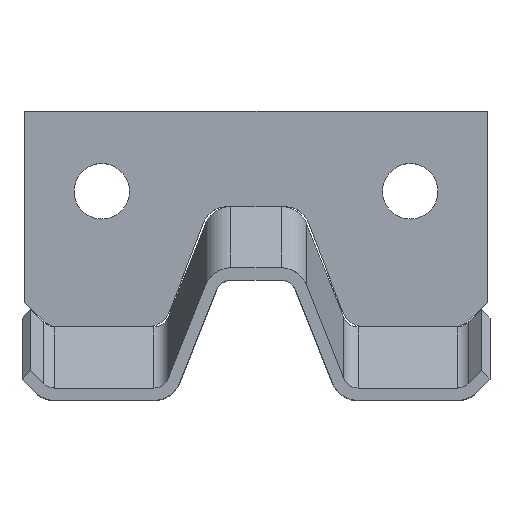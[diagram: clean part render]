
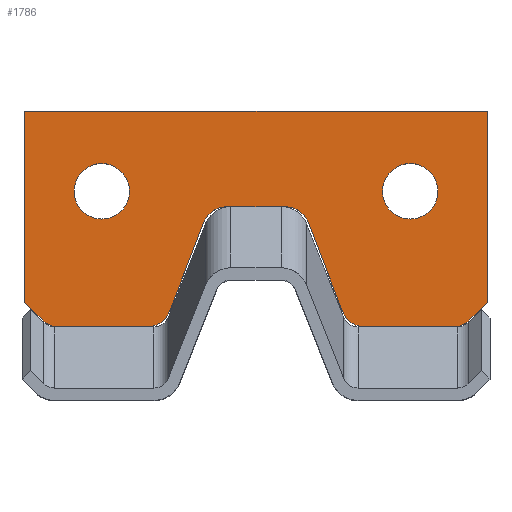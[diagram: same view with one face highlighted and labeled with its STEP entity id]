
A CAD part, top view. The second image highlights one B-rep face of the part: STEP entity #1786.
In plain terms, the highlighted planar face has unit normal (0, 0, 1).
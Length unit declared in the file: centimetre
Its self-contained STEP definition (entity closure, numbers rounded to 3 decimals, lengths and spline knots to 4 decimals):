
#86=FACE_BOUND('',#203,.T.);
#87=FACE_BOUND('',#204,.T.);
#94=FACE_OUTER_BOUND('',#202,.T.);
#202=EDGE_LOOP('',(#1188,#1189,#1190,#1191,#1192,#1193,#1194,#1195,#1196,
#1197,#1198,#1199,#1200,#1201,#1202,#1203,#1204,#1205));
#203=EDGE_LOOP('',(#1206));
#204=EDGE_LOOP('',(#1207));
#318=CIRCLE('',#1897,0.8);
#319=CIRCLE('',#1898,0.8);
#320=CIRCLE('',#1899,0.8);
#321=CIRCLE('',#1900,0.8);
#322=CIRCLE('',#1901,0.8);
#323=CIRCLE('',#1902,0.8);
#324=CIRCLE('',#1903,0.9);
#325=CIRCLE('',#1904,0.9);
#362=LINE('',#2630,#562);
#363=LINE('',#2634,#563);
#364=LINE('',#2638,#564);
#365=LINE('',#2642,#565);
#366=LINE('',#2644,#566);
#367=LINE('',#2646,#567);
#368=LINE('',#2648,#568);
#369=LINE('',#2650,#569);
#370=LINE('',#2654,#570);
#371=LINE('',#2658,#571);
#372=LINE('',#2662,#572);
#373=LINE('',#2663,#573);
#562=VECTOR('',#2076,0.1);
#563=VECTOR('',#2079,0.1);
#564=VECTOR('',#2082,0.1);
#565=VECTOR('',#2085,0.1);
#566=VECTOR('',#2086,0.1);
#567=VECTOR('',#2087,0.1);
#568=VECTOR('',#2088,0.1);
#569=VECTOR('',#2089,0.1);
#570=VECTOR('',#2092,0.1);
#571=VECTOR('',#2095,0.1);
#572=VECTOR('',#2098,0.1);
#573=VECTOR('',#2099,0.1);
#762=VERTEX_POINT('',#2628);
#763=VERTEX_POINT('',#2629);
#764=VERTEX_POINT('',#2631);
#765=VERTEX_POINT('',#2633);
#766=VERTEX_POINT('',#2635);
#767=VERTEX_POINT('',#2637);
#768=VERTEX_POINT('',#2639);
#769=VERTEX_POINT('',#2641);
#770=VERTEX_POINT('',#2643);
#771=VERTEX_POINT('',#2645);
#772=VERTEX_POINT('',#2647);
#773=VERTEX_POINT('',#2649);
#774=VERTEX_POINT('',#2651);
#775=VERTEX_POINT('',#2653);
#776=VERTEX_POINT('',#2655);
#777=VERTEX_POINT('',#2657);
#778=VERTEX_POINT('',#2659);
#779=VERTEX_POINT('',#2661);
#780=VERTEX_POINT('',#2664);
#781=VERTEX_POINT('',#2666);
#920=EDGE_CURVE('',#762,#763,#362,.T.);
#921=EDGE_CURVE('',#763,#764,#318,.T.);
#922=EDGE_CURVE('',#764,#765,#363,.T.);
#923=EDGE_CURVE('',#765,#766,#319,.T.);
#924=EDGE_CURVE('',#767,#766,#364,.T.);
#925=EDGE_CURVE('',#767,#768,#320,.T.);
#926=EDGE_CURVE('',#768,#769,#365,.T.);
#927=EDGE_CURVE('',#769,#770,#366,.T.);
#928=EDGE_CURVE('',#770,#771,#367,.T.);
#929=EDGE_CURVE('',#771,#772,#368,.T.);
#930=EDGE_CURVE('',#772,#773,#369,.T.);
#931=EDGE_CURVE('',#773,#774,#321,.T.);
#932=EDGE_CURVE('',#775,#774,#370,.T.);
#933=EDGE_CURVE('',#775,#776,#322,.T.);
#934=EDGE_CURVE('',#776,#777,#371,.T.);
#935=EDGE_CURVE('',#777,#778,#323,.T.);
#936=EDGE_CURVE('',#778,#779,#372,.T.);
#937=EDGE_CURVE('',#762,#779,#373,.T.);
#938=EDGE_CURVE('',#780,#780,#324,.T.);
#939=EDGE_CURVE('',#781,#781,#325,.T.);
#1188=ORIENTED_EDGE('',*,*,#920,.T.);
#1189=ORIENTED_EDGE('',*,*,#921,.T.);
#1190=ORIENTED_EDGE('',*,*,#922,.T.);
#1191=ORIENTED_EDGE('',*,*,#923,.T.);
#1192=ORIENTED_EDGE('',*,*,#924,.F.);
#1193=ORIENTED_EDGE('',*,*,#925,.T.);
#1194=ORIENTED_EDGE('',*,*,#926,.T.);
#1195=ORIENTED_EDGE('',*,*,#927,.T.);
#1196=ORIENTED_EDGE('',*,*,#928,.T.);
#1197=ORIENTED_EDGE('',*,*,#929,.T.);
#1198=ORIENTED_EDGE('',*,*,#930,.T.);
#1199=ORIENTED_EDGE('',*,*,#931,.T.);
#1200=ORIENTED_EDGE('',*,*,#932,.F.);
#1201=ORIENTED_EDGE('',*,*,#933,.T.);
#1202=ORIENTED_EDGE('',*,*,#934,.T.);
#1203=ORIENTED_EDGE('',*,*,#935,.T.);
#1204=ORIENTED_EDGE('',*,*,#936,.T.);
#1205=ORIENTED_EDGE('',*,*,#937,.F.);
#1206=ORIENTED_EDGE('',*,*,#938,.T.);
#1207=ORIENTED_EDGE('',*,*,#939,.T.);
#1724=PLANE('',#1896);
#1786=ADVANCED_FACE('',(#94,#86,#87),#1724,.T.);
#1896=AXIS2_PLACEMENT_3D('',#2627,#2074,#2075);
#1897=AXIS2_PLACEMENT_3D('',#2632,#2077,#2078);
#1898=AXIS2_PLACEMENT_3D('',#2636,#2080,#2081);
#1899=AXIS2_PLACEMENT_3D('',#2640,#2083,#2084);
#1900=AXIS2_PLACEMENT_3D('',#2652,#2090,#2091);
#1901=AXIS2_PLACEMENT_3D('',#2656,#2093,#2094);
#1902=AXIS2_PLACEMENT_3D('',#2660,#2096,#2097);
#1903=AXIS2_PLACEMENT_3D('',#2665,#2100,#2101);
#1904=AXIS2_PLACEMENT_3D('',#2667,#2102,#2103);
#2074=DIRECTION('center_axis',(0.,0.,1.));
#2075=DIRECTION('ref_axis',(1.,0.,0.));
#2076=DIRECTION('',(1.,0.,0.));
#2077=DIRECTION('center_axis',(0.,0.,-1.));
#2078=DIRECTION('ref_axis',(0.566,0.824,0.));
#2079=DIRECTION('',(0.359,-0.933,0.));
#2080=DIRECTION('center_axis',(0.,0.,1.));
#2081=DIRECTION('ref_axis',(-0.566,-0.824,0.));
#2082=DIRECTION('',(-1.,0.,0.));
#2083=DIRECTION('center_axis',(0.,0.,1.));
#2084=DIRECTION('ref_axis',(0.383,-0.924,0.));
#2085=DIRECTION('',(0.707,0.707,0.));
#2086=DIRECTION('',(0.,1.,0.));
#2087=DIRECTION('',(-1.,0.,0.));
#2088=DIRECTION('',(0.,-1.,0.));
#2089=DIRECTION('',(0.707,-0.707,0.));
#2090=DIRECTION('center_axis',(0.,0.,1.));
#2091=DIRECTION('ref_axis',(-0.383,-0.924,0.));
#2092=DIRECTION('',(-1.,0.,0.));
#2093=DIRECTION('center_axis',(0.,0.,1.));
#2094=DIRECTION('ref_axis',(0.566,-0.824,0.));
#2095=DIRECTION('',(0.359,0.933,0.));
#2096=DIRECTION('center_axis',(0.,0.,-1.));
#2097=DIRECTION('ref_axis',(-0.566,0.824,0.));
#2098=DIRECTION('',(1.,0.,0.));
#2099=DIRECTION('',(-1.,0.,0.));
#2100=DIRECTION('center_axis',(0.,0.,-1.));
#2101=DIRECTION('ref_axis',(1.,0.,0.));
#2102=DIRECTION('center_axis',(0.,0.,-1.));
#2103=DIRECTION('ref_axis',(1.,0.,0.));
#2627=CARTESIAN_POINT('Origin',(-52.4958,280.4396,1.));
#2628=CARTESIAN_POINT('',(-55.1851,279.9396,1.));
#2629=CARTESIAN_POINT('',(-55.0452,279.9396,1.));
#2630=CARTESIAN_POINT('',(-56.9463,279.9396,1.));
#2631=CARTESIAN_POINT('',(-54.2985,279.4268,1.));
#2632=CARTESIAN_POINT('Origin',(-55.0452,279.1396,1.));
#2633=CARTESIAN_POINT('',(-53.193,276.5524,1.));
#2634=CARTESIAN_POINT('',(-54.2985,279.4268,1.));
#2635=CARTESIAN_POINT('',(-52.4463,276.0396,1.));
#2636=CARTESIAN_POINT('Origin',(-52.4463,276.8396,1.));
#2637=CARTESIAN_POINT('',(-49.6271,276.0396,1.));
#2638=CARTESIAN_POINT('',(-52.5904,276.0396,1.));
#2639=CARTESIAN_POINT('',(-49.0614,276.2739,1.));
#2640=CARTESIAN_POINT('Origin',(-49.6271,276.8396,1.));
#2641=CARTESIAN_POINT('',(-48.4958,276.8396,1.));
#2642=CARTESIAN_POINT('',(-49.0614,276.2739,1.));
#2643=CARTESIAN_POINT('',(-48.4958,283.0396,1.));
#2644=CARTESIAN_POINT('',(-48.4958,276.8396,1.));
#2645=CARTESIAN_POINT('',(-63.4958,283.0396,1.));
#2646=CARTESIAN_POINT('',(-48.4958,283.0396,1.));
#2647=CARTESIAN_POINT('',(-63.4958,276.8396,1.));
#2648=CARTESIAN_POINT('',(-63.4958,283.0396,1.));
#2649=CARTESIAN_POINT('',(-62.9301,276.2739,1.));
#2650=CARTESIAN_POINT('',(-63.4958,276.8396,1.));
#2651=CARTESIAN_POINT('',(-62.3644,276.0396,1.));
#2652=CARTESIAN_POINT('Origin',(-62.3644,276.8396,1.));
#2653=CARTESIAN_POINT('',(-59.5452,276.0396,1.));
#2654=CARTESIAN_POINT('',(-57.5084,276.0396,1.));
#2655=CARTESIAN_POINT('',(-58.7985,276.5524,1.));
#2656=CARTESIAN_POINT('Origin',(-59.5452,276.8396,1.));
#2657=CARTESIAN_POINT('',(-57.693,279.4268,1.));
#2658=CARTESIAN_POINT('',(-58.7985,276.5524,1.));
#2659=CARTESIAN_POINT('',(-56.9463,279.9396,1.));
#2660=CARTESIAN_POINT('Origin',(-56.9463,279.1396,1.));
#2661=CARTESIAN_POINT('',(-56.8064,279.9396,1.));
#2662=CARTESIAN_POINT('',(-56.9463,279.9396,1.));
#2663=CARTESIAN_POINT('',(-54.6511,279.9396,1.));
#2664=CARTESIAN_POINT('',(-61.8958,280.4396,1.));
#2665=CARTESIAN_POINT('Origin',(-60.9958,280.4396,1.));
#2666=CARTESIAN_POINT('',(-51.8958,280.4396,1.));
#2667=CARTESIAN_POINT('Origin',(-50.9958,280.4396,1.));
